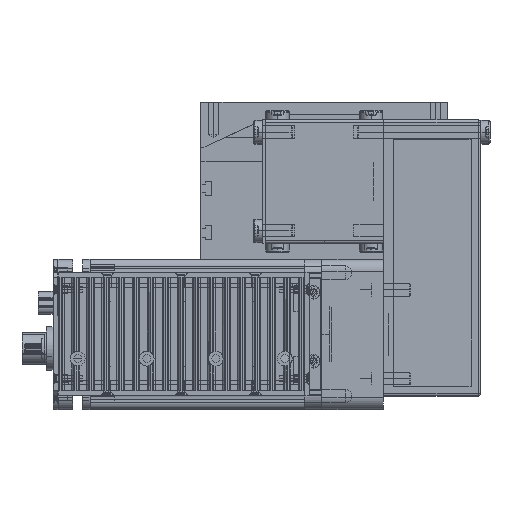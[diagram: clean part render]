
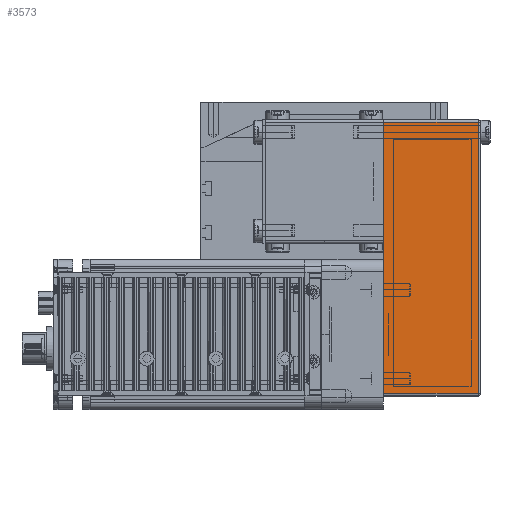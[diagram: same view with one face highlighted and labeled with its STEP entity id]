
A CAD part, top view. The second image highlights one B-rep face of the part: STEP entity #3573.
In plain terms, the highlighted planar face has unit normal (0, 0, 1) as drawn and (0, -1, 0) by its records, which use the part's own axes.
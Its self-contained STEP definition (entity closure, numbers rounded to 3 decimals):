
#3508 = EDGE_CURVE ( 'NONE', #3522, #3512, #21848, .T. ) ;
#3512 = VERTEX_POINT ( 'NONE', #21841 ) ;
#3514 = VERTEX_POINT ( 'NONE', #21831 ) ;
#3515 = VERTEX_POINT ( 'NONE', #21812 ) ;
#3517 = EDGE_CURVE ( 'NONE', #3514, #3515, #21813, .T. ) ;
#3522 = VERTEX_POINT ( 'NONE', #21823 ) ;
#3570 = EDGE_CURVE ( 'NONE', #3515, #3522, #22084, .T. ) ;
#3571 = ORIENTED_EDGE ( 'NONE', *, *, #3508, .F. ) ;
#3572 = ORIENTED_EDGE ( 'NONE', *, *, #3581, .T. ) ;
#3573 = ADVANCED_FACE ( 'NONE', ( #22068 ), #22086, .F. ) ;
#3581 = EDGE_CURVE ( 'NONE', #3514, #3512, #22140, .T. ) ;
#3583 = ORIENTED_EDGE ( 'NONE', *, *, #3517, .F. ) ;
#3596 = EDGE_LOOP ( 'NONE', ( #3583, #3572, #3571, #3639 ) ) ;
#3639 = ORIENTED_EDGE ( 'NONE', *, *, #3570, .F. ) ;
#21803 = DIRECTION ( 'NONE',  ( 0., 0., 1. ) ) ;
#21804 = VECTOR ( 'NONE', #21803, 1000. ) ;
#21805 = CARTESIAN_POINT ( 'NONE',  ( -49., -25., 39.5 ) ) ;
#21812 = CARTESIAN_POINT ( 'NONE',  ( -49., -25., 38.5 ) ) ;
#21813 = LINE ( 'NONE', #21805, #21804 ) ;
#21823 = CARTESIAN_POINT ( 'NONE',  ( 61., -25., 38.5 ) ) ;
#21831 = CARTESIAN_POINT ( 'NONE',  ( -49., -25., 0. ) ) ;
#21836 = DIRECTION ( 'NONE',  ( 0., 0., -1. ) ) ;
#21838 = VECTOR ( 'NONE', #21836, 1000. ) ;
#21839 = CARTESIAN_POINT ( 'NONE',  ( 61., -25., 39.5 ) ) ;
#21841 = CARTESIAN_POINT ( 'NONE',  ( 61., -25., 0. ) ) ;
#21848 = LINE ( 'NONE', #21839, #21838 ) ;
#22058 = DIRECTION ( 'NONE',  ( 0., 0., 1. ) ) ;
#22059 = DIRECTION ( 'NONE',  ( 0., 1., 0. ) ) ;
#22060 = CARTESIAN_POINT ( 'NONE',  ( -50., -25., 39.5 ) ) ;
#22067 = DIRECTION ( 'NONE',  ( 1., 0., 0. ) ) ;
#22068 = FACE_OUTER_BOUND ( 'NONE', #3596, .T. ) ;
#22081 = AXIS2_PLACEMENT_3D ( 'NONE', #22060, #22059, #22058 ) ;
#22082 = VECTOR ( 'NONE', #22067, 1000. ) ;
#22083 = CARTESIAN_POINT ( 'NONE',  ( -50., -25., 38.5 ) ) ;
#22084 = LINE ( 'NONE', #22083, #22082 ) ;
#22086 = PLANE ( 'NONE',  #22081 ) ;
#22135 = DIRECTION ( 'NONE',  ( 1., 0., 0. ) ) ;
#22136 = VECTOR ( 'NONE', #22135, 1000. ) ;
#22138 = CARTESIAN_POINT ( 'NONE',  ( -50., -25., 0. ) ) ;
#22140 = LINE ( 'NONE', #22138, #22136 ) ;
